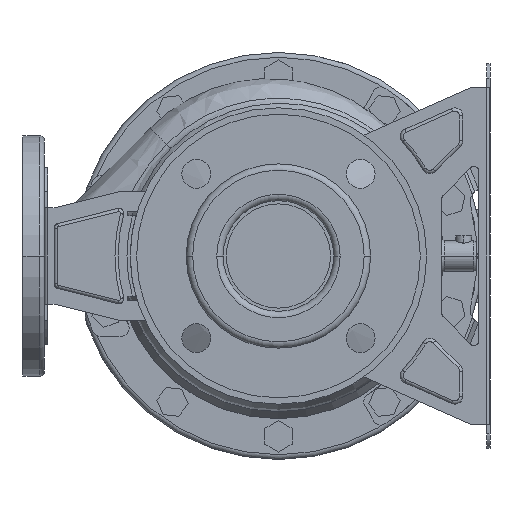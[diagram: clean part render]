
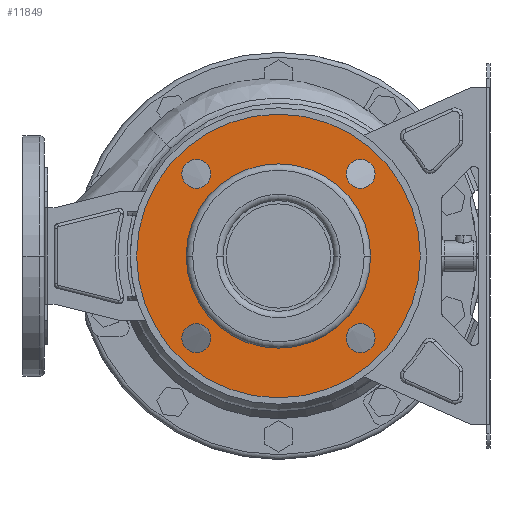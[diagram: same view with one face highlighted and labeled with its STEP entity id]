
A CAD part, left-side view. The second image highlights one B-rep face of the part: STEP entity #11849.
In plain terms, the highlighted planar face has unit normal (-1, 0, 0).
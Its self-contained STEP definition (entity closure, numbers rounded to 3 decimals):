
#11182=CARTESIAN_POINT('',(12.,0.,0.));
#11183=DIRECTION('',(-1.,0.,0.));
#11184=DIRECTION('',(0.,1.,0.));
#11185=AXIS2_PLACEMENT_3D('',#11182,#11183,#11184);
#11190=CARTESIAN_POINT('',(12.,0.,0.));
#11191=DIRECTION('',(1.,0.,0.));
#11192=DIRECTION('',(0.,1.,0.));
#11193=AXIS2_PLACEMENT_3D('',#11190,#11191,#11192);
#11198=CARTESIAN_POINT('',(12.,-51.265,51.265));
#11199=DIRECTION('',(1.,0.,0.));
#11200=DIRECTION('',(0.,1.,0.));
#11201=AXIS2_PLACEMENT_3D('',#11198,#11199,#11200);
#11206=CARTESIAN_POINT('',(12.,-51.265,51.265));
#11207=DIRECTION('',(1.,0.,0.));
#11208=DIRECTION('',(0.,-1.,0.));
#11209=AXIS2_PLACEMENT_3D('',#11206,#11207,#11208);
#11214=CARTESIAN_POINT('',(12.,-51.265,-51.265));
#11215=DIRECTION('',(1.,0.,0.));
#11216=DIRECTION('',(0.,0.,1.));
#11217=AXIS2_PLACEMENT_3D('',#11214,#11215,#11216);
#11222=CARTESIAN_POINT('',(12.,-51.265,-51.265));
#11223=DIRECTION('',(1.,0.,0.));
#11224=DIRECTION('',(0.,0.,-1.));
#11225=AXIS2_PLACEMENT_3D('',#11222,#11223,#11224);
#11230=CARTESIAN_POINT('',(12.,51.265,-51.265));
#11231=DIRECTION('',(1.,0.,0.));
#11232=DIRECTION('',(0.,-1.,0.));
#11233=AXIS2_PLACEMENT_3D('',#11230,#11231,#11232);
#11238=CARTESIAN_POINT('',(12.,51.265,-51.265));
#11239=DIRECTION('',(1.,0.,0.));
#11240=DIRECTION('',(0.,1.,0.));
#11241=AXIS2_PLACEMENT_3D('',#11238,#11239,#11240);
#11246=CARTESIAN_POINT('',(12.,51.265,51.265));
#11247=DIRECTION('',(1.,0.,0.));
#11248=DIRECTION('',(0.,0.,-1.));
#11249=AXIS2_PLACEMENT_3D('',#11246,#11247,#11248);
#11254=CARTESIAN_POINT('',(12.,51.265,51.265));
#11255=DIRECTION('',(1.,0.,0.));
#11256=DIRECTION('',(0.,0.,1.));
#11257=AXIS2_PLACEMENT_3D('',#11254,#11255,#11256);
#11262=CARTESIAN_POINT('',(12.,0.,0.));
#11263=DIRECTION('',(1.,0.,0.));
#11264=DIRECTION('',(0.,1.,0.));
#11265=AXIS2_PLACEMENT_3D('',#11262,#11263,#11264);
#11284=CARTESIAN_POINT('',(12.,0.,0.));
#11285=DIRECTION('',(-1.,0.,0.));
#11286=DIRECTION('',(0.,1.,0.));
#11287=AXIS2_PLACEMENT_3D('',#11284,#11285,#11286);
#11449=CARTESIAN_POINT('',(12.,88.5,0.));
#11451=VERTEX_POINT('',#11449);
#11452=CARTESIAN_POINT('',(12.,57.5,0.));
#11454=VERTEX_POINT('',#11452);
#11481=CARTESIAN_POINT('',(12.,-88.5,0.));
#11483=VERTEX_POINT('',#11481);
#11484=CARTESIAN_POINT('',(12.,-57.5,0.));
#11486=VERTEX_POINT('',#11484);
#11496=CARTESIAN_POINT('',(12.,-42.265,51.265));
#11497=CARTESIAN_POINT('',(12.,-60.265,51.265));
#11498=VERTEX_POINT('',#11496);
#11499=VERTEX_POINT('',#11497);
#11504=CARTESIAN_POINT('',(12.,-51.265,-42.265));
#11505=CARTESIAN_POINT('',(12.,-51.265,-60.265));
#11506=VERTEX_POINT('',#11504);
#11507=VERTEX_POINT('',#11505);
#11512=CARTESIAN_POINT('',(12.,42.265,-51.265));
#11513=CARTESIAN_POINT('',(12.,60.265,-51.265));
#11514=VERTEX_POINT('',#11512);
#11515=VERTEX_POINT('',#11513);
#11520=CARTESIAN_POINT('',(12.,51.265,42.265));
#11521=CARTESIAN_POINT('',(12.,51.265,60.265));
#11522=VERTEX_POINT('',#11520);
#11523=VERTEX_POINT('',#11521);
#11810=CARTESIAN_POINT('',(12.,0.,0.));
#11811=DIRECTION('',(1.,0.,0.));
#11812=DIRECTION('',(0.,-1.,0.));
#11813=AXIS2_PLACEMENT_3D('',#11810,#11811,#11812);
#11814=PLANE('',#11813);
#11815=ORIENTED_EDGE('',*,*,#11803,.F.);
#11816=ORIENTED_EDGE('',*,*,#11792,.T.);
#11817=EDGE_LOOP('',(#11815,#11816));
#11818=FACE_OUTER_BOUND('',#11817,.F.);
#11820=ORIENTED_EDGE('',*,*,#11819,.F.);
#11822=ORIENTED_EDGE('',*,*,#11821,.T.);
#11823=EDGE_LOOP('',(#11820,#11822));
#11824=FACE_BOUND('',#11823,.F.);
#11826=ORIENTED_EDGE('',*,*,#11825,.F.);
#11828=ORIENTED_EDGE('',*,*,#11827,.F.);
#11829=EDGE_LOOP('',(#11826,#11828));
#11830=FACE_BOUND('',#11829,.F.);
#11832=ORIENTED_EDGE('',*,*,#11831,.F.);
#11834=ORIENTED_EDGE('',*,*,#11833,.F.);
#11835=EDGE_LOOP('',(#11832,#11834));
#11836=FACE_BOUND('',#11835,.F.);
#11838=ORIENTED_EDGE('',*,*,#11837,.F.);
#11840=ORIENTED_EDGE('',*,*,#11839,.F.);
#11841=EDGE_LOOP('',(#11838,#11840));
#11842=FACE_BOUND('',#11841,.F.);
#11844=ORIENTED_EDGE('',*,*,#11843,.F.);
#11846=ORIENTED_EDGE('',*,*,#11845,.F.);
#11847=EDGE_LOOP('',(#11844,#11846));
#11848=FACE_BOUND('',#11847,.F.);
#11186=CIRCLE('',#11185,88.5);
#11194=CIRCLE('',#11193,88.5);
#11202=CIRCLE('',#11201,9.);
#11210=CIRCLE('',#11209,9.);
#11218=CIRCLE('',#11217,9.);
#11226=CIRCLE('',#11225,9.);
#11234=CIRCLE('',#11233,9.);
#11242=CIRCLE('',#11241,9.);
#11250=CIRCLE('',#11249,9.);
#11258=CIRCLE('',#11257,9.);
#11266=CIRCLE('',#11265,57.5);
#11288=CIRCLE('',#11287,57.5);
#11792=EDGE_CURVE('',#11451,#11483,#11194,.T.);
#11803=EDGE_CURVE('',#11451,#11483,#11186,.T.);
#11819=EDGE_CURVE('',#11454,#11486,#11266,.T.);
#11821=EDGE_CURVE('',#11454,#11486,#11288,.T.);
#11825=EDGE_CURVE('',#11498,#11499,#11202,.T.);
#11827=EDGE_CURVE('',#11499,#11498,#11210,.T.);
#11831=EDGE_CURVE('',#11506,#11507,#11218,.T.);
#11833=EDGE_CURVE('',#11507,#11506,#11226,.T.);
#11837=EDGE_CURVE('',#11514,#11515,#11234,.T.);
#11839=EDGE_CURVE('',#11515,#11514,#11242,.T.);
#11843=EDGE_CURVE('',#11522,#11523,#11250,.T.);
#11845=EDGE_CURVE('',#11523,#11522,#11258,.T.);
#11849=ADVANCED_FACE('',(#11818,#11824,#11830,#11836,#11842,#11848),#11814,.F.);
